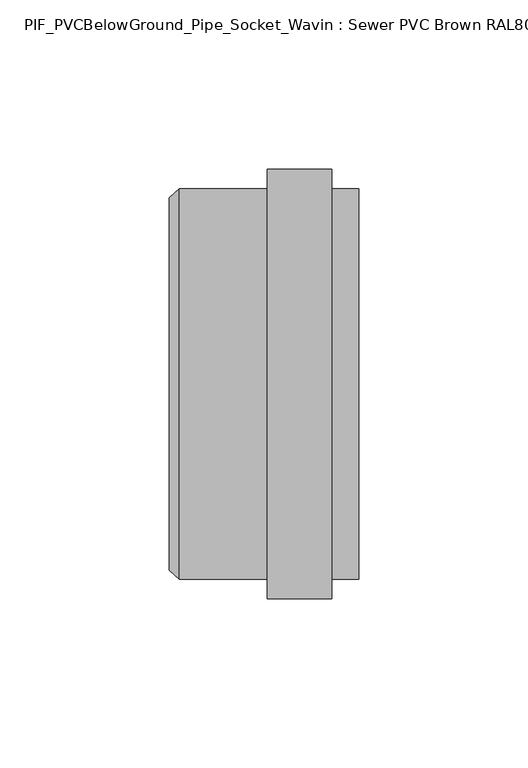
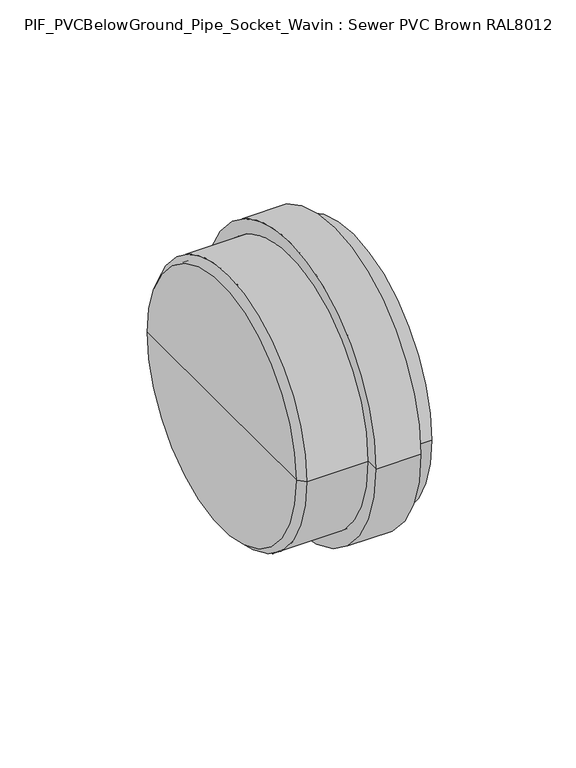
"""IFC4 building model written with IfcOpenShell, lengths in millimetres: pipe fitting geometry, PIF_PVCBelowGround_Pipe_Socket_Wavin : Sewer PVC Brown RAL8012."""

from ifc_helpers import new_model, si_unit, frame, origin, place, context, project, spatial, polyline, circle_curve, source, transform, mapped, element, save
from ifc_brep_helpers import plane_surface, cylinder_surface, revolved_surface, advanced_brep


def pif_pvcbelowground_pipe_socket_wavin_sewer_pvc_brown_ral8012_61e17469(model_context):
    return source(origin(), model_context, "Body", "AdvancedBrep", [
        advanced_brep(
        [(26.0, -63.5, 0.0), (26.0, 63.5, 0.0), (45.0, 63.5, 0.0), (45.0, -63.5, 0.0), (26.0, -57.65, 0.0), (26.0, 57.65, 0.0), (45.0, -57.65, 0.0), (45.0, 57.65, 0.0)],
        [
            (0, 1, circle_curve(frame((26.0, 0.0, 0.0), z_axis=(1.0, 0.0, 0.0), x_axis=(0.0, 1.0, 0.0)), 63.5)),
            (1, 2),
            (2, 3, circle_curve(frame((45.0, 0.0, 0.0), z_axis=(-1.0, 0.0, 0.0), x_axis=(0.0, 1.0, 0.0)), 63.5)),
            (3, 0),
            (1, 0, circle_curve(frame((26.0, 0.0, 0.0), z_axis=(1.0, 0.0, 0.0), x_axis=(0.0, 1.0, 0.0)), 63.5)),
            (3, 2, circle_curve(frame((45.0, 0.0, 0.0), z_axis=(-1.0, 0.0, 0.0), x_axis=(0.0, 1.0, 0.0)), 63.5)),
            (4, 5, circle_curve(frame((26.0, 0.0, 0.0), z_axis=(1.0, 0.0, 0.0), x_axis=(0.0, 1.0, 0.0)), 57.65)),
            (5, 1),
            (0, 4),
            (5, 4, circle_curve(frame((26.0, 0.0, 0.0), z_axis=(1.0, 0.0, 0.0), x_axis=(0.0, 1.0, 0.0)), 57.65)),
            (6, 7, circle_curve(frame((45.0, 0.0, 0.0), z_axis=(1.0, 0.0, 0.0), x_axis=(0.0, 1.0, 0.0)), 57.65)),
            (7, 5),
            (4, 6),
            (7, 6, circle_curve(frame((45.0, 0.0, 0.0), z_axis=(1.0, 0.0, 0.0), x_axis=(0.0, 1.0, 0.0)), 57.65)),
            (2, 7),
            (6, 3),
        ],
        [
            cylinder_surface(frame((1963.3, 0.0, 0.0), z_axis=(-1.0, 0.0, 0.0), x_axis=(0.0, 1.0, 0.0)), 63.5),
            plane_surface(frame((26.0, 0.0, 0.0), z_axis=(-1.0, 0.0, 0.0), x_axis=(0.0, 1.0, 0.0))),
            revolved_surface(polyline([(26.0, 57.65, 0.0), (45.0, 57.65, 0.0)]), (1963.3, 0.0, 0.0), (-1.0, 0.0, 0.0)),
            plane_surface(frame((45.0, 0.0, 0.0), z_axis=(1.0, 0.0, 0.0), x_axis=(0.0, 1.0, 0.0))),
        ],
        [
            (0, [[1, 2, 3, 4]]),
            (0, [[5, -4, 6, -2]]),
            (1, [[7, 8, -1, 9]]),
            (1, [[10, -9, -5, -8]]),
            (2, [[11, 12, -7, 13]]),
            (2, [[14, -13, -10, -12]]),
            (3, [[-3, 15, -11, 16]]),
            (3, [[-6, -16, -14, -15]]),
        ],
    ),
        advanced_brep(
        [(53.0, -57.65, 0.0), (53.0, 57.65, 0.0), (53.0, 55.0, 0.0), (53.0, -55.0, 0.0), (0.0, -57.65, 0.0), (0.0, 57.65, 0.0), (-3.0, -55.0, 0.0), (-3.0, 55.0, 0.0), (-3.0, 0.0, 0.0), (0.0, -55.0, 0.0), (0.0, 55.0, 0.0), (0.0, 0.0, 0.0)],
        [
            (0, 1, circle_curve(frame((53.0, 0.0, 0.0), z_axis=(1.0, 0.0, 0.0), x_axis=(0.0, 1.0, 0.0)), 57.65)),
            (1, 2),
            (2, 3, circle_curve(frame((53.0, 0.0, 0.0), z_axis=(-1.0, 0.0, 0.0), x_axis=(0.0, 1.0, 0.0)), 55.0)),
            (3, 0),
            (1, 0, circle_curve(frame((53.0, 0.0, 0.0), z_axis=(1.0, 0.0, 0.0), x_axis=(0.0, 1.0, 0.0)), 57.65)),
            (3, 2, circle_curve(frame((53.0, 0.0, 0.0), z_axis=(-1.0, 0.0, 0.0), x_axis=(0.0, 1.0, 0.0)), 55.0)),
            (4, 5, circle_curve(frame((0.0, 0.0, 0.0), z_axis=(1.0, 0.0, 0.0), x_axis=(0.0, 1.0, 0.0)), 57.65)),
            (5, 1),
            (0, 4),
            (5, 4, circle_curve(frame((0.0, 0.0, 0.0), z_axis=(1.0, 0.0, 0.0), x_axis=(0.0, 1.0, 0.0)), 57.65)),
            (6, 7, circle_curve(frame((-3.0, 0.0, 0.0), z_axis=(1.0, 0.0, 0.0), x_axis=(0.0, 1.0, 0.0)), 55.0)),
            (7, 5),
            (4, 6),
            (7, 6, circle_curve(frame((-3.0, 0.0, 0.0), z_axis=(1.0, 0.0, 0.0), x_axis=(0.0, 1.0, 0.0)), 55.0)),
            (8, 7),
            (6, 8),
            (9, 10, circle_curve(frame((0.0, 0.0, 0.0), z_axis=(1.0, 0.0, 0.0), x_axis=(0.0, 1.0, 0.0)), 55.0)),
            (10, 11),
            (11, 9),
            (10, 9, circle_curve(frame((0.0, 0.0, 0.0), z_axis=(1.0, 0.0, 0.0), x_axis=(0.0, 1.0, 0.0)), 55.0)),
            (2, 10),
            (9, 3),
        ],
        [
            plane_surface(frame((53.0, 0.0, 0.0), z_axis=(1.0, 0.0, 0.0), x_axis=(0.0, 1.0, 0.0))),
            cylinder_surface(frame((1963.3, 0.0, 0.0), z_axis=(-1.0, 0.0, 0.0), x_axis=(0.0, 1.0, 0.0)), 57.65),
            revolved_surface(polyline([(0.0, 57.65, 0.0), (-3.0, 55.0, 0.0)]), (1963.3, 0.0, 0.0), (-1.0, 0.0, 0.0)),
            plane_surface(frame((-3.0, 0.0, 0.0), z_axis=(-1.0, 0.0, 0.0), x_axis=(0.0, 1.0, 0.0))),
            plane_surface(frame((0.0, 0.0, 0.0), z_axis=(1.0, 0.0, 0.0), x_axis=(0.0, 1.0, 0.0))),
            revolved_surface(polyline([(0.0, 55.0, 0.0), (53.0, 55.0, 0.0)]), (1963.3, 0.0, 0.0), (-1.0, 0.0, 0.0)),
        ],
        [
            (0, [[1, 2, 3, 4]]),
            (0, [[5, -4, 6, -2]]),
            (1, [[7, 8, -1, 9]]),
            (1, [[10, -9, -5, -8]]),
            (2, [[11, 12, -7, 13]]),
            (2, [[14, -13, -10, -12]]),
            (3, [[15, -11, 16]]),
            (3, [[-16, -14, -15]]),
            (4, [[17, 18, 19]]),
            (4, [[20, -19, -18]]),
            (5, [[-3, 21, -17, 22]]),
            (5, [[-6, -22, -20, -21]]),
        ],
    ),
    ])


if __name__ == "__main__":
    model = new_model("IFC4")
    model_context = context("Model", 3, world=origin())
    ifc_project = project(units=[si_unit("LENGTHUNIT", "METRE", prefix="MILLI")], contexts=[model_context])
    site = spatial("IfcSite", under=ifc_project)
    building = spatial("IfcBuilding", under=site)
    placement = place(None, origin())
    pif_pvcbelowground_pipe_socket_wavin_sewer_pvc_brown_ral8012_shape = pif_pvcbelowground_pipe_socket_wavin_sewer_pvc_brown_ral8012_61e17469(model_context)
    element("IfcPipeFitting", 1, ObjectType="PIF_PVCBelowGround_Pipe_Socket_Wavin : Sewer PVC Brown RAL8012", at=placement, inside=building, context=model_context, shape_type="MappedRepresentation", body=[
        mapped(pif_pvcbelowground_pipe_socket_wavin_sewer_pvc_brown_ral8012_shape, transform((0.0, 0.0, 0.0), x_axis=(1.0, 0.0, 0.0), y_axis=(0.0, 1.0, 0.0), z_axis=(0.0, 0.0, 1.0))),
    ])
    save(model, "model.ifc")
